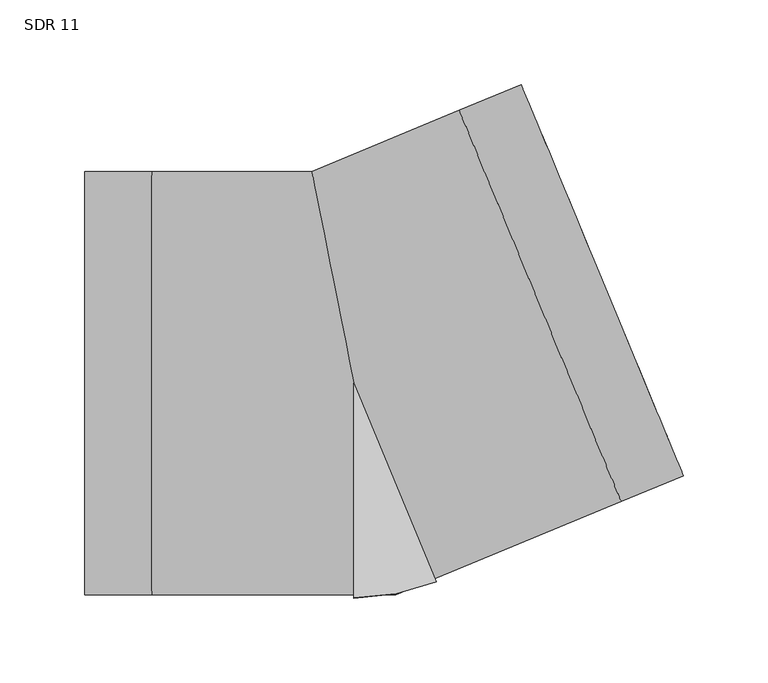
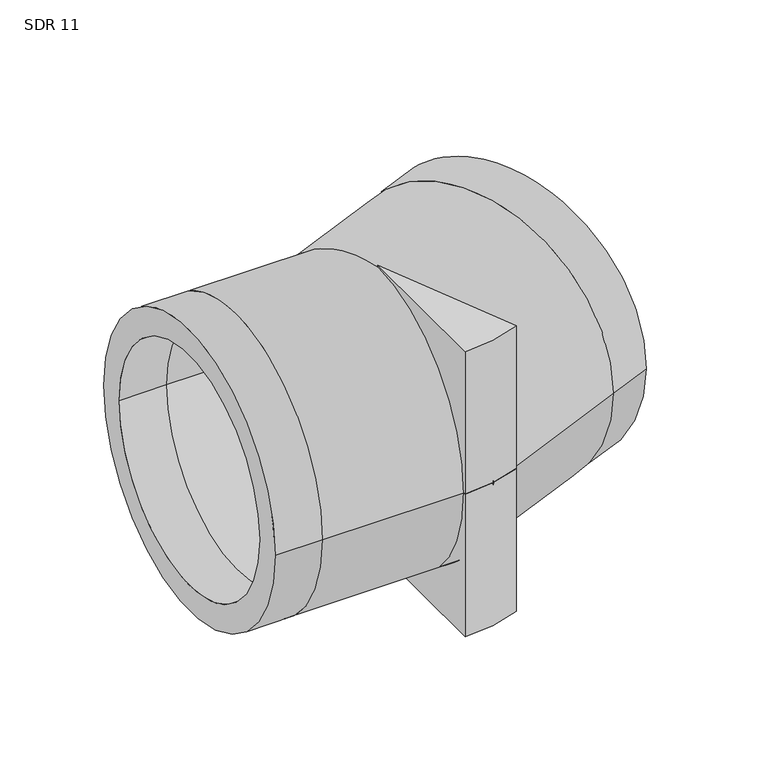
"""IFC4 building model written with IfcOpenShell, lengths in millimetres: pipe fitting geometry, Aquatherm - Elbow Blue BW Segmented : SDR 11."""

from ifc_helpers import new_model, si_unit, point, frame, origin, origin_with_axes, origin_2d, place, context, project, spatial, polyline, circle_curve, ellipse_curve, trimmed, segment, composite_curve, outline, extrude, source, transform, mapped, element, save
from ifc_brep_helpers import plane_surface, cylinder_surface, revolved_surface, advanced_brep


def sdr_11_44f43451(model_context):
    return source(origin(), model_context, "Body", "SolidModel", [
        extrude(outline(composite_curve([segment(polyline([(0.0, -127.0), (0.0, 0.0), (48.6007959, -117.3327006)]), True, "CONTINUOUS"), segment(trimmed(circle_curve(origin_2d(), 127.0), [point((48.6007959, -117.3327006))], [point((0.0, -127.0))], False, "CARTESIAN"), True, "CONTINUOUS")], self_intersect=False)), frame((0.0, 0.0, -127.0), z_axis=(0.0, 0.0, 1.0), x_axis=(1.0, 0.0, 0.0)), (0.0, 0.0, 1.0), 127.0),
        extrude(outline(composite_curve([segment(trimmed(circle_curve(origin_2d(), 127.0), [point((48.6007959, -117.3327006))], [point((0.0, -127.0))], False, "CARTESIAN"), True, "CONTINUOUS"), segment(polyline([(0.0, -127.0), (0.0, 0.0), (48.6007959, -117.3327006)]), True, "CONTINUOUS")], self_intersect=False)), origin_with_axes(), (0.0, 0.0, 1.0), 127.0),
        advanced_brep(
        [(-158.75, -124.968, 0.0), (-158.75, 124.968, 0.0), (-158.75, -102.2465455, 0.0), (-158.75, 102.2465455, 0.0), (194.489059, -54.7043825, 0.0), (98.8426926, 176.2063723, 0.0), (185.7939347, -33.7124957, 0.0), (107.5378168, 155.2144855, 0.0), (-119.0625, -124.968, 0.0), (-119.0625, 124.968, 0.0), (-119.0625, -102.2465455, 0.0), (-119.0625, 102.2465455, 0.0), (24.8576807, -124.968, 0.0), (-24.8576807, 124.968, 0.0), (20.3381024, -102.2465455, 0.0), (-20.3381024, 102.2465455, 0.0), (157.82259, -69.8921313, 0.0), (62.1762237, 161.0186236, 0.0), (149.1274658, -48.9002444, 0.0), (70.8713479, 140.0267368, 0.0)],
        [
            (0, 1, circle_curve(frame((-158.75, 0.0, 0.0), z_axis=(-1.0, 0.0, 0.0), x_axis=(0.0, 1.0, 0.0)), 124.968)),
            (1, 0, circle_curve(frame((-158.75, 0.0, 0.0), z_axis=(-1.0, 0.0, 0.0), x_axis=(0.0, 1.0, 0.0)), 124.968)),
            (2, 3, circle_curve(frame((-158.75, 0.0, 0.0), z_axis=(1.0, 0.0, 0.0), x_axis=(0.0, 1.0, 0.0)), 102.2465455)),
            (3, 2, circle_curve(frame((-158.75, 0.0, 0.0), z_axis=(1.0, 0.0, 0.0), x_axis=(0.0, 1.0, 0.0)), 102.2465455)),
            (4, 5, circle_curve(frame((146.6658758, 60.7509949, 0.0), z_axis=(0.9238795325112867, 0.3826834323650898, 0.0), x_axis=(-0.3826834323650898, 0.9238795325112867, 0.0)), 124.968)),
            (5, 4, circle_curve(frame((146.6658758, 60.7509949, 0.0), z_axis=(0.9238795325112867, 0.3826834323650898, 0.0), x_axis=(-0.3826834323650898, 0.9238795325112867, 0.0)), 124.968)),
            (6, 7, circle_curve(frame((146.6658758, 60.7509949, 0.0), z_axis=(-0.9238795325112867, -0.3826834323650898, 0.0), x_axis=(-0.3826834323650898, 0.9238795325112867, 0.0)), 102.2465455)),
            (7, 6, circle_curve(frame((146.6658758, 60.7509949, 0.0), z_axis=(-0.9238795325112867, -0.3826834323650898, 0.0), x_axis=(-0.3826834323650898, 0.9238795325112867, 0.0)), 102.2465455)),
            (0, 8),
            (8, 9, circle_curve(frame((-119.0625, 0.0, 0.0), z_axis=(-1.0, 0.0, 0.0), x_axis=(0.0, 1.0, 0.0)), 124.968)),
            (9, 1),
            (9, 8, circle_curve(frame((-119.0625, 0.0, 0.0), z_axis=(-1.0, 0.0, 0.0), x_axis=(0.0, 1.0, 0.0)), 124.968)),
            (2, 10),
            (10, 11, circle_curve(frame((-119.0625, 0.0, 0.0), z_axis=(1.0, 0.0, 0.0), x_axis=(0.0, 1.0, 0.0)), 102.2465455)),
            (11, 3),
            (11, 10, circle_curve(frame((-119.0625, 0.0, 0.0), z_axis=(1.0, 0.0, 0.0), x_axis=(0.0, 1.0, 0.0)), 102.2465455)),
            (8, 12),
            (12, 13, ellipse_curve(frame((0.0, 0.0, 0.0), z_axis=(-0.9807852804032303, -0.19509032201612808, 0.0), x_axis=(-0.19509032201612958, 0.9807852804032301, 0.0)), 127.4162679, 124.968)),
            (13, 9),
            (13, 12, ellipse_curve(frame((0.0, 0.0, 0.0), z_axis=(-0.9807852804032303, -0.19509032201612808, 0.0), x_axis=(-0.19509032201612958, 0.9807852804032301, 0.0)), 127.4162679, 124.968)),
            (10, 14),
            (14, 15, ellipse_curve(frame((0.0, 0.0, 0.0), z_axis=(0.9807852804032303, 0.19509032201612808, 0.0), x_axis=(0.19509032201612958, -0.9807852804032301, 0.0)), 104.2496737, 102.2465455)),
            (15, 11),
            (15, 14, ellipse_curve(frame((0.0, 0.0, 0.0), z_axis=(0.9807852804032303, 0.19509032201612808, 0.0), x_axis=(0.19509032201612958, -0.9807852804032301, 0.0)), 104.2496737, 102.2465455)),
            (12, 16),
            (16, 17, circle_curve(frame((109.9994068, 45.5632462, 0.0), z_axis=(-0.9238795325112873, -0.38268343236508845, 0.0), x_axis=(-0.38268343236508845, 0.9238795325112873, 0.0)), 124.968)),
            (17, 13),
            (17, 16, circle_curve(frame((109.9994068, 45.5632462, 0.0), z_axis=(-0.9238795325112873, -0.38268343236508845, 0.0), x_axis=(-0.38268343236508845, 0.9238795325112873, 0.0)), 124.968)),
            (14, 18),
            (18, 19, circle_curve(frame((109.9994068, 45.5632462, 0.0), z_axis=(0.9238795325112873, 0.38268343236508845, 0.0), x_axis=(-0.38268343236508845, 0.9238795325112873, 0.0)), 102.2465455)),
            (19, 15),
            (19, 18, circle_curve(frame((109.9994068, 45.5632462, 0.0), z_axis=(0.9238795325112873, 0.38268343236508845, 0.0), x_axis=(-0.38268343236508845, 0.9238795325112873, 0.0)), 102.2465455)),
            (16, 4),
            (5, 17),
            (18, 6),
            (7, 19),
        ],
        [
            plane_surface(frame((-158.75, 0.0, 0.0), z_axis=(-1.0, 0.0, 0.0), x_axis=(0.0, 0.0, 1.0))),
            plane_surface(frame((146.6658758, 60.7509949, 0.0), z_axis=(0.9238795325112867, 0.3826834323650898, 0.0), x_axis=(0.0, 0.0, 1.0))),
            cylinder_surface(frame((-158.75, 0.0, 0.0), z_axis=(-1.0, 0.0, 0.0), x_axis=(0.0, 1.0, 0.0)), 124.968),
            revolved_surface(polyline([(-119.0625, 102.2465455, 0.0), (-158.75, 102.2465455, 0.0)]), (-158.75, 0.0, 0.0), (1.0, 0.0, 0.0)),
            cylinder_surface(frame((-119.0625, 0.0, 0.0), z_axis=(-1.0, 0.0, 0.0), x_axis=(0.0, 1.0, 0.0)), 124.968),
            revolved_surface(polyline([(20.338102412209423, 102.2465455, 0.0), (-119.0625, 102.2465455, 0.0)]), (-119.0625, 0.0, 0.0), (1.0, 0.0, 0.0)),
            cylinder_surface(frame((0.0, 0.0, 0.0), z_axis=(-0.9238795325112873, -0.38268343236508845, 0.0), x_axis=(-0.38268343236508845, 0.9238795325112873, 0.0)), 124.968),
            revolved_surface(polyline([(70.87134788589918, 140.0267368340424, 0.0), (-57.918015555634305, 86.68043580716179, 0.0)]), (0.0, 0.0, 0.0), (0.9238795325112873, 0.38268343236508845, 0.0)),
            cylinder_surface(frame((109.9994068, 45.5632462, 0.0), z_axis=(-0.9238795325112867, -0.3826834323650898, 0.0), x_axis=(-0.3826834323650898, 0.9238795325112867, 0.0)), 124.968),
            revolved_surface(polyline([(107.53781680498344, 155.21448559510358, 0.0), (70.87134782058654, 140.02673685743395, 0.0)]), (109.9994068, 45.5632462, 0.0), (0.9238795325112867, 0.3826834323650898, 0.0)),
        ],
        [
            (0, [[1, 2], [3, 4]]),
            (1, [[5, 6], [7, 8]]),
            (2, [[-1, 9, 10, 11]]),
            (2, [[-2, -11, 12, -9]]),
            (3, [[-3, 13, 14, 15]]),
            (3, [[-4, -15, 16, -13]]),
            (4, [[-10, 17, 18, 19]]),
            (4, [[-12, -19, 20, -17]]),
            (5, [[-14, 21, 22, 23]]),
            (5, [[-16, -23, 24, -21]]),
            (6, [[-18, 25, 26, 27]]),
            (6, [[-20, -27, 28, -25]]),
            (7, [[-22, 29, 30, 31]]),
            (7, [[-24, -31, 32, -29]]),
            (8, [[-26, 33, -6, 34]]),
            (8, [[-28, -34, -5, -33]]),
            (9, [[-30, 35, -8, 36]]),
            (9, [[-32, -36, -7, -35]]),
        ],
    ),
    ])


if __name__ == "__main__":
    model = new_model("IFC4")
    model_context = context("Model", 3, world=origin())
    ifc_project = project(units=[si_unit("LENGTHUNIT", "METRE", prefix="MILLI")], contexts=[model_context])
    site = spatial("IfcSite", under=ifc_project)
    building = spatial("IfcBuilding", under=site)
    placement = place(None, origin())
    sdr_11_shape = sdr_11_44f43451(model_context)
    element("IfcPipeFitting", 1, ObjectType="Aquatherm - Elbow Blue BW Segmented : SDR 11", at=placement, inside=building, context=model_context, shape_type="MappedRepresentation", body=[
        mapped(sdr_11_shape, transform((0.0, 0.0, 0.0), x_axis=(1.0, 0.0, 0.0), y_axis=(0.0, 1.0, 0.0), z_axis=(0.0, 0.0, 1.0))),
    ])
    save(model, "model.ifc")
